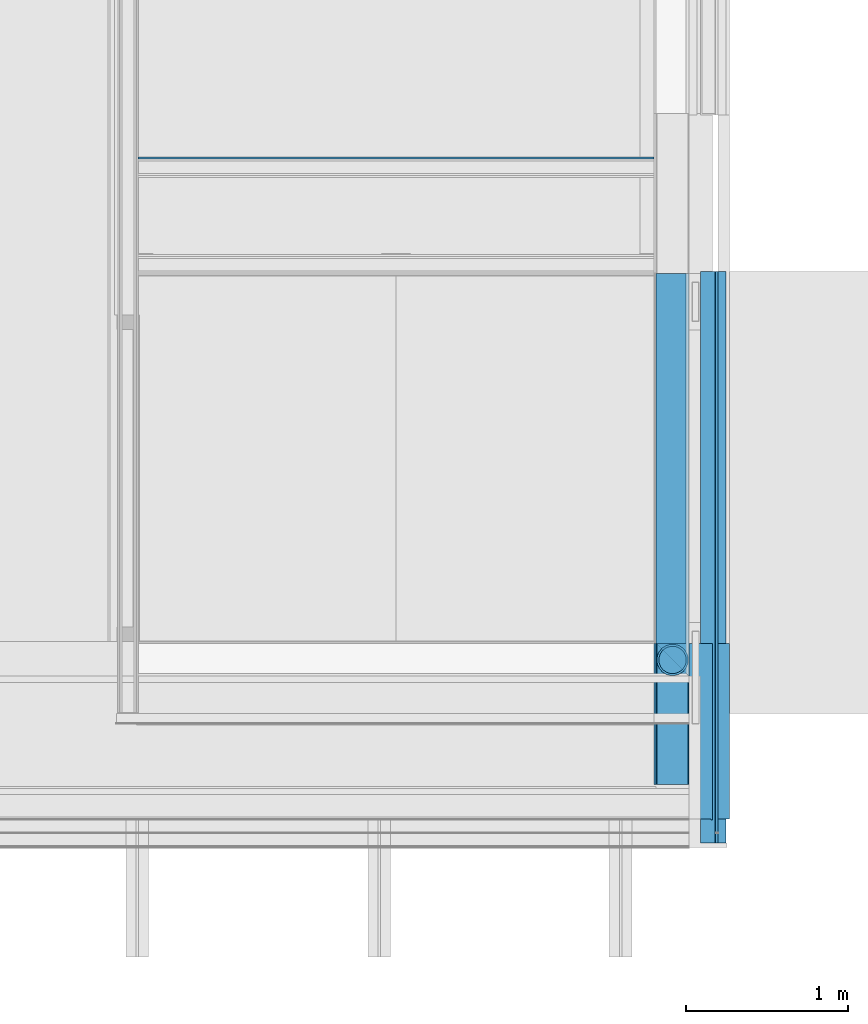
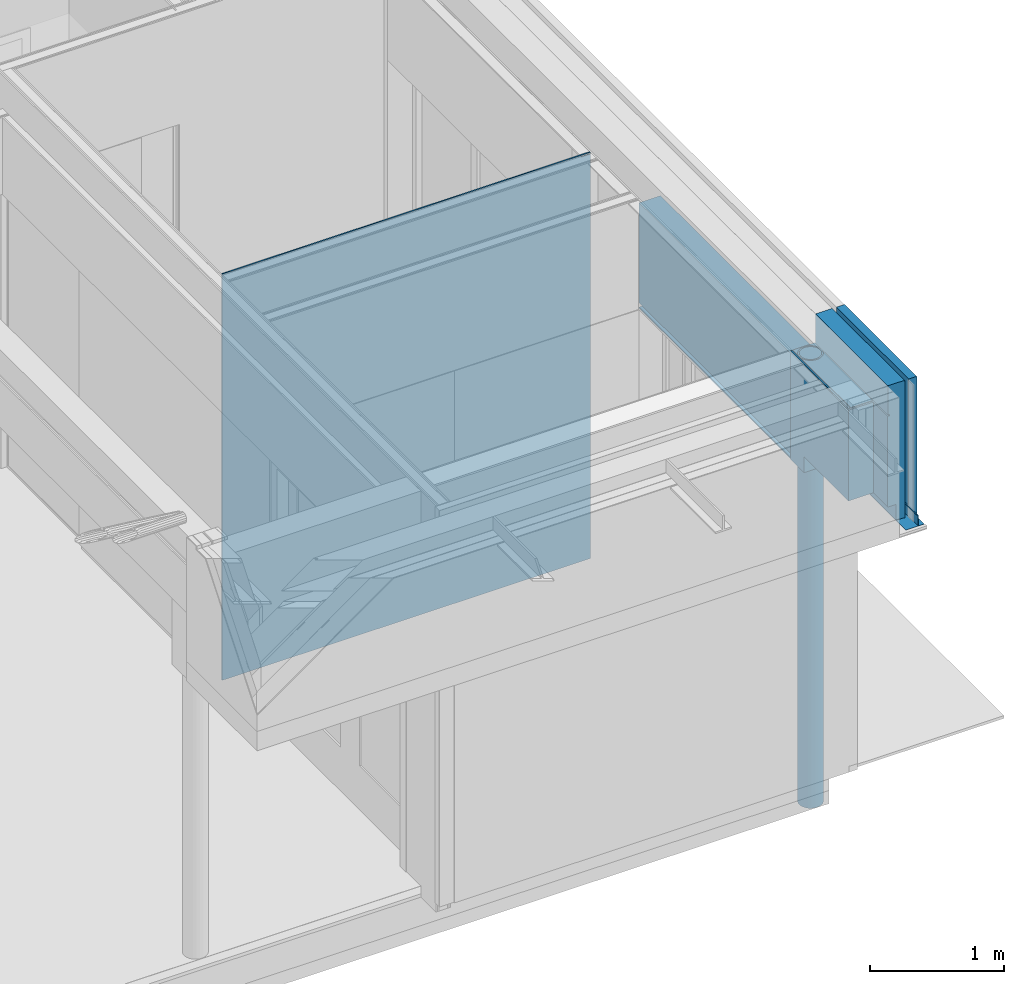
# One storey, part 66 of 165: 10 building element parts, 5 elements without a shape of their own.
"""IFC2X3 building model written with IfcOpenShell, lengths in millimetres."""

from ifc_helpers import new_model, entity, si_unit, converted_unit, derived_unit, money_unit, direction, frame, origin_with_axes, place, context, subcontext, project, spatial, faceted_brep, material, type_object, element, aggregate, save


model = new_model("IFC2X3")

# Units and contexts
model_context = context("Model", 3, precision=0.01, world=origin_with_axes(), true_north=direction((0.0, 1.0)))
body_context = subcontext(model_context, "Body", "Model", "MODEL_VIEW")
ifc_project = project(units=[si_unit("LENGTHUNIT", "METRE", prefix="MILLI"), si_unit("AREAUNIT", "SQUARE_METRE"), si_unit("VOLUMEUNIT", "CUBIC_METRE"), converted_unit("PLANEANGLEUNIT", "DEGREE", entity("IfcPlaneAngleMeasure", 0.0174532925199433), si_unit("PLANEANGLEUNIT", "RADIAN"), dimensions=[0, 0, 0, 0, 0, 0, 0]), money_unit("EUR"), converted_unit("TIMEUNIT", "Year", entity("IfcTimeMeasure", 31556926.0), si_unit("TIMEUNIT", "SECOND"), dimensions=[0, 0, 1, 0, 0, 0, 0]), si_unit("MASSUNIT", "GRAM", prefix="KILO"), si_unit("THERMODYNAMICTEMPERATUREUNIT", "DEGREE_CELSIUS"), si_unit("LUMINOUSINTENSITYUNIT", "LUMEN"), si_unit("ENERGYUNIT", "JOULE", prefix="MEGA"), derived_unit("THERMALCONDUCTANCEUNIT", [(si_unit("POWERUNIT", "WATT"), 1), (si_unit("LENGTHUNIT", "METRE"), -1), (si_unit("THERMODYNAMICTEMPERATUREUNIT", "KELVIN"), -1)]), derived_unit("SPECIFICHEATCAPACITYUNIT", [(si_unit("ENERGYUNIT", "JOULE"), 1), (si_unit("MASSUNIT", "GRAM", prefix="KILO"), -1), (si_unit("THERMODYNAMICTEMPERATUREUNIT", "KELVIN"), -1)]), derived_unit("MASSDENSITYUNIT", [(si_unit("MASSUNIT", "GRAM", prefix="KILO"), 1), (si_unit("VOLUMEUNIT", "CUBIC_METRE"), -1)])], contexts=[model_context])

# Site, building, storey
site_placement = place(None, origin_with_axes())
site = spatial("IfcSite", under=ifc_project, at=site_placement, Name="Site", CompositionType="ELEMENT")
building_placement = place(site_placement, origin_with_axes())
building = spatial("IfcBuilding", under=site, at=building_placement, Name="Naam gebouw", CompositionType="ELEMENT")
storey_placement = place(building_placement, origin_with_axes())
storey = spatial("IfcBuildingStorey", under=building, at=storey_placement, Name="Begane grond", CompositionType="ELEMENT", Elevation=0.0)

# Column, building element parts
column_type = type_object("IfcColumnType", Name="193.7X12.5 194 x 194", PredefinedType="COLUMN")
column_placement = place(storey_placement, frame((29800.0, 4579.999999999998, -480.0), z_axis=(0.0, 0.0, 1.0), x_axis=(1.0, 0.0, 0.0)))
column = element("IfcColumn", 1, at=column_placement, inside=storey, type_object=column_type, Name="28_Kolom-x", ObjectType="COLUMN")
ifc_material_1 = material(Name="Beton gewapend C")
building_element_part_1_placement = place(column_placement, origin_with_axes())
building_element_part_1 = element("IfcBuildingElementPart", 2, at=building_element_part_1_placement, material=ifc_material_1, Name="Beton gewapend C", context=body_context, shape_type="Brep", body=[
    faceted_brep([(80.93323232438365, 23.76414116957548, 4063.0), (84.35000000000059, 0.0, 4063.0), (84.35000000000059, 0.0, 0.0), (80.93323232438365, 23.76414116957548, 0.0), (80.93323232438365, -23.76414116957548, 4063.0), (70.95973549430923, 45.6030529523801, 4063.0), (55.23750290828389, 63.74747659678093, 4063.0), (35.04025634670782, 76.72745880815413, 4063.0), (12.00425660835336, 83.49143862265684, 4063.0), (-12.00425660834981, 83.49143862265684, 4063.0), (-35.04025634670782, 76.72745880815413, 4063.0), (-55.23750290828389, 63.74747659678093, 4063.0), (-70.95973549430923, 45.6030529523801, 4063.0), (-80.93323232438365, 23.76414116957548, 4063.0), (-84.35000000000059, 0.0, 4063.0), (-80.93323232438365, -23.76414116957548, 4063.0), (-70.95973549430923, -45.6030529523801, 4063.0), (-55.23750290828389, -63.74747659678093, 4063.0), (-35.04025634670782, -76.72745880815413, 4063.0), (-12.00425660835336, -83.49143862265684, 4063.0), (12.00425660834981, -83.49143862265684, 4063.0), (35.04025634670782, -76.72745880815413, 4063.0), (55.23750290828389, -63.74747659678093, 4063.0), (70.95973549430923, -45.6030529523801, 4063.0), (80.93323232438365, -23.76414116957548, 0.0), (70.95973549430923, 45.6030529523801, 0.0), (70.95973549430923, -45.6030529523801, 0.0), (55.23750290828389, -63.74747659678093, 0.0), (35.04025634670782, -76.72745880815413, 0.0), (12.00425660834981, -83.49143862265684, 0.0), (-12.00425660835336, -83.49143862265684, 0.0), (-35.04025634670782, -76.72745880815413, 0.0), (-55.23750290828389, -63.74747659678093, 0.0), (-70.95973549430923, -45.6030529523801, 0.0), (-80.93323232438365, -23.76414116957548, 0.0), (-84.35000000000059, 0.0, 0.0), (-80.93323232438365, 23.76414116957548, 0.0), (-70.95973549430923, 45.6030529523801, 0.0), (-55.23750290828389, 63.74747659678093, 0.0), (-35.04025634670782, 76.72745880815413, 0.0), (-12.00425660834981, 83.49143862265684, 0.0), (12.00425660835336, 83.49143862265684, 0.0), (35.04025634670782, 76.72745880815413, 0.0), (55.23750290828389, 63.74747659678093, 0.0)], [[[0, 1, 2, 3]], [[4, 1, 0, 5, 6, 7, 8, 9, 10, 11, 12, 13, 14, 15, 16, 17, 18, 19, 20, 21, 22, 23]], [[1, 4, 24, 2]], [[25, 3, 2, 24, 26, 27, 28, 29, 30, 31, 32, 33, 34, 35, 36, 37, 38, 39, 40, 41, 42, 43]], [[5, 0, 3, 25]], [[6, 5, 25, 43]], [[7, 6, 43, 42]], [[8, 7, 42, 41]], [[9, 8, 41, 40]], [[10, 9, 40, 39]], [[11, 10, 39, 38]], [[12, 11, 38, 37]], [[13, 12, 37, 36]], [[14, 13, 36, 35]], [[15, 14, 35, 34]], [[16, 15, 34, 33]], [[17, 16, 33, 32]], [[18, 17, 32, 31]], [[19, 18, 31, 30]], [[20, 19, 30, 29]], [[21, 20, 29, 28]], [[22, 21, 28, 27]], [[23, 22, 27, 26]], [[4, 23, 26, 24]]]),
    faceted_brep([(80.93323232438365, -23.76414116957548, 4074.999999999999), (84.35000000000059, 0.0, 4074.999999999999), (84.35000000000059, 0.0, 4079.999999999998), (80.93323232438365, -23.76414116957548, 4079.999999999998), (80.93323232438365, 23.76414116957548, 4074.999999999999), (70.95973549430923, -45.6030529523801, 4074.999999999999), (55.23750290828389, -63.74747659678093, 4074.999999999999), (35.04025634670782, -76.72745880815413, 4074.999999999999), (12.00425660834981, -83.49143862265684, 4074.999999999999), (-12.00425660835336, -83.49143862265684, 4074.999999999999), (-35.04025634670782, -76.72745880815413, 4074.999999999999), (-55.23750290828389, -63.74747659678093, 4074.999999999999), (-70.95973549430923, -45.6030529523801, 4074.999999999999), (-80.93323232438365, -23.76414116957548, 4074.999999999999), (-84.35000000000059, 0.0, 4074.999999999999), (-80.93323232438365, 23.76414116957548, 4074.999999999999), (-70.95973549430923, 45.6030529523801, 4074.999999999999), (-55.23750290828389, 63.74747659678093, 4074.999999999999), (-35.04025634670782, 76.72745880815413, 4074.999999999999), (-12.00425660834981, 83.49143862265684, 4074.999999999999), (12.00425660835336, 83.49143862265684, 4074.999999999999), (35.04025634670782, 76.72745880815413, 4074.999999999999), (55.23750290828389, 63.74747659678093, 4074.999999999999), (70.95973549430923, 45.6030529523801, 4074.999999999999), (80.93323232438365, 23.76414116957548, 4079.999999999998), (70.95973549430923, -45.6030529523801, 4079.999999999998), (70.95973549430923, 45.6030529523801, 4079.999999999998), (55.23750290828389, 63.74747659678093, 4079.999999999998), (35.04025634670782, 76.72745880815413, 4079.999999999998), (12.00425660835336, 83.49143862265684, 4079.999999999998), (-12.00425660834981, 83.49143862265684, 4079.999999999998), (-35.04025634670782, 76.72745880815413, 4079.999999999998), (-55.23750290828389, 63.74747659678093, 4079.999999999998), (-70.95973549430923, 45.6030529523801, 4079.999999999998), (-80.93323232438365, 23.76414116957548, 4079.999999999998), (-84.35000000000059, 0.0, 4079.999999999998), (-80.93323232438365, -23.76414116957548, 4079.999999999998), (-70.95973549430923, -45.6030529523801, 4079.999999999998), (-55.23750290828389, -63.74747659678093, 4079.999999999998), (-35.04025634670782, -76.72745880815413, 4079.999999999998), (-12.00425660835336, -83.49143862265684, 4079.999999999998), (12.00425660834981, -83.49143862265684, 4079.999999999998), (35.04025634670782, -76.72745880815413, 4079.999999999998), (55.23750290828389, -63.74747659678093, 4079.999999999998)], [[[0, 1, 2, 3]], [[4, 1, 0, 5, 6, 7, 8, 9, 10, 11, 12, 13, 14, 15, 16, 17, 18, 19, 20, 21, 22, 23]], [[1, 4, 24, 2]], [[25, 3, 2, 24, 26, 27, 28, 29, 30, 31, 32, 33, 34, 35, 36, 37, 38, 39, 40, 41, 42, 43]], [[5, 0, 3, 25]], [[6, 5, 25, 43]], [[7, 6, 43, 42]], [[8, 7, 42, 41]], [[9, 8, 41, 40]], [[10, 9, 40, 39]], [[11, 10, 39, 38]], [[12, 11, 38, 37]], [[13, 12, 37, 36]], [[14, 13, 36, 35]], [[15, 14, 35, 34]], [[16, 15, 34, 33]], [[17, 16, 33, 32]], [[18, 17, 32, 31]], [[19, 18, 31, 30]], [[20, 19, 30, 29]], [[21, 20, 29, 28]], [[22, 21, 28, 27]], [[23, 22, 27, 26]], [[4, 23, 26, 24]]]),
])
ifc_material_2 = material(Name="Metaal - Staal C")
building_element_part_2_placement = place(column_placement, origin_with_axes())
building_element_part_2 = element("IfcBuildingElementPart", 3, at=building_element_part_2_placement, material=ifc_material_2, Name="Metaal - Staal C", context=body_context, shape_type="Brep", body=[
    faceted_brep([(96.84999999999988, 0.0, 0.0), (92.92689449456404, 27.28579813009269, 0.0), (92.92689449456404, 27.28579813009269, 4079.999999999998), (96.84999999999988, 0.0, 4079.999999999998), (92.92689449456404, -27.28579813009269, 0.0), (81.47540465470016, -52.36106317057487, 0.0), (63.42326208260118, -73.19434627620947, 0.0), (40.23294400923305, -88.0978587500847, 0.0), (13.78319208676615, -95.86420664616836, 0.0), (-13.78319208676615, -95.86420664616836, 0.0), (-40.23294400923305, -88.0978587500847, 0.0), (-63.42326208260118, -73.19434627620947, 0.0), (-81.47540465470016, -52.36106317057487, 0.0), (-92.92689449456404, -27.28579813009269, 0.0), (-96.84999999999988, 0.0, 0.0), (-92.92689449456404, 27.28579813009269, 0.0), (-81.47540465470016, 52.36106317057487, 0.0), (-63.42326208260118, 73.19434627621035, 0.0), (-40.23294400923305, 88.0978587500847, 0.0), (-13.78319208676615, 95.86420664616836, 0.0), (13.78319208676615, 95.86420664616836, 0.0), (40.23294400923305, 88.0978587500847, 0.0), (63.42326208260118, 73.19434627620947, 0.0), (81.47540465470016, 52.36106317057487, 0.0), (84.35000000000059, 0.0, 0.0), (80.93323232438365, 23.76414116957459, 0.0), (70.95973549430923, 45.6030529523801, 0.0), (55.23750290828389, 63.74747659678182, 0.0), (35.04025634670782, 76.72745880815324, 0.0), (12.00425660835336, 83.49143862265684, 0.0), (-12.00425660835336, 83.49143862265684, 0.0), (-35.04025634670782, 76.72745880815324, 0.0), (-55.23750290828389, 63.74747659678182, 0.0), (-70.95973549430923, 45.6030529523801, 0.0), (-80.93323232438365, 23.76414116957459, 0.0), (-84.35000000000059, 0.0, 0.0), (-80.93323232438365, -23.76414116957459, 0.0), (-70.95973549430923, -45.60305295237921, 0.0), (-55.23750290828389, -63.74747659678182, 0.0), (-35.04025634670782, -76.72745880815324, 0.0), (-12.00425660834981, -83.49143862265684, 0.0), (12.00425660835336, -83.49143862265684, 0.0), (35.04025634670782, -76.72745880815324, 0.0), (55.23750290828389, -63.74747659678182, 0.0), (70.95973549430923, -45.60305295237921, 0.0), (80.93323232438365, -23.76414116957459, 0.0), (81.47540465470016, 52.36106317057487, 4079.999999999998), (63.42326208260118, 73.19434627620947, 4079.999999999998), (40.23294400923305, 88.0978587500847, 4079.999999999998), (13.78319208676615, 95.86420664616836, 4079.999999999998), (-13.78319208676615, 95.86420664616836, 4079.999999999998), (-40.23294400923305, 88.0978587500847, 4079.999999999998), (-63.42326208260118, 73.19434627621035, 4079.999999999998), (-81.47540465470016, 52.36106317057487, 4079.999999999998), (-92.92689449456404, 27.28579813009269, 4079.999999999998), (-96.84999999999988, 0.0, 4079.999999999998), (-92.92689449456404, -27.28579813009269, 4079.999999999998), (-81.47540465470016, -52.36106317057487, 4079.999999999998), (-63.42326208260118, -73.19434627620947, 4079.999999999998), (-40.23294400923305, -88.0978587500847, 4079.999999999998), (-13.78319208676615, -95.86420664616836, 4079.999999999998), (13.78319208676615, -95.86420664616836, 4079.999999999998), (40.23294400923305, -88.0978587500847, 4079.999999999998), (63.42326208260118, -73.19434627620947, 4079.999999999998), (81.47540465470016, -52.36106317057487, 4079.999999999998), (92.92689449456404, -27.28579813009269, 4079.999999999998), (84.35000000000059, 0.0, 4079.999999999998), (80.93323232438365, -23.76414116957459, 4079.999999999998), (70.95973549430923, -45.60305295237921, 4079.999999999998), (55.23750290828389, -63.74747659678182, 4079.999999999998), (35.04025634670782, -76.72745880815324, 4079.999999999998), (12.00425660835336, -83.49143862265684, 4079.999999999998), (-12.00425660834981, -83.49143862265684, 4079.999999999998), (-35.04025634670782, -76.72745880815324, 4079.999999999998), (-55.23750290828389, -63.74747659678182, 4079.999999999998), (-70.95973549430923, -45.60305295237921, 4079.999999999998), (-80.93323232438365, -23.76414116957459, 4079.999999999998), (-84.35000000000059, 0.0, 4079.999999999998), (-80.93323232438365, 23.76414116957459, 4079.999999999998), (-70.95973549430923, 45.6030529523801, 4079.999999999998), (-55.23750290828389, 63.74747659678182, 4079.999999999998), (-35.04025634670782, 76.72745880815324, 4079.999999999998), (-12.00425660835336, 83.49143862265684, 4079.999999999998), (12.00425660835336, 83.49143862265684, 4079.999999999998), (35.04025634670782, 76.72745880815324, 4079.999999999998), (55.23750290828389, 63.74747659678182, 4079.999999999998), (70.95973549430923, 45.6030529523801, 4079.999999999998), (80.93323232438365, 23.76414116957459, 4079.999999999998)], [[[0, 1, 2, 3]], [[0, 4, 5, 6, 7, 8, 9, 10, 11, 12, 13, 14, 15, 16, 17, 18, 19, 20, 21, 22, 23, 1], [24, 25, 26, 27, 28, 29, 30, 31, 32, 33, 34, 35, 36, 37, 38, 39, 40, 41, 42, 43, 44, 45]], [[1, 23, 46, 2]], [[3, 2, 46, 47, 48, 49, 50, 51, 52, 53, 54, 55, 56, 57, 58, 59, 60, 61, 62, 63, 64, 65], [66, 67, 68, 69, 70, 71, 72, 73, 74, 75, 76, 77, 78, 79, 80, 81, 82, 83, 84, 85, 86, 87]], [[4, 0, 3, 65]], [[5, 4, 65, 64]], [[6, 5, 64, 63]], [[7, 6, 63, 62]], [[8, 7, 62, 61]], [[9, 8, 61, 60]], [[10, 9, 60, 59]], [[11, 10, 59, 58]], [[12, 11, 58, 57]], [[13, 12, 57, 56]], [[14, 13, 56, 55]], [[15, 14, 55, 54]], [[16, 15, 54, 53]], [[17, 16, 53, 52]], [[18, 17, 52, 51]], [[19, 18, 51, 50]], [[20, 19, 50, 49]], [[21, 20, 49, 48]], [[22, 21, 48, 47]], [[23, 22, 47, 46]], [[25, 24, 66, 87]], [[26, 25, 87, 86]], [[27, 26, 86, 85]], [[28, 27, 85, 84]], [[29, 28, 84, 83]], [[30, 29, 83, 82]], [[31, 30, 82, 81]], [[32, 31, 81, 80]], [[33, 32, 80, 79]], [[34, 33, 79, 78]], [[35, 34, 78, 77]], [[36, 35, 77, 76]], [[37, 36, 76, 75]], [[38, 37, 75, 74]], [[39, 38, 74, 73]], [[40, 39, 73, 72]], [[41, 40, 72, 71]], [[42, 41, 71, 70]], [[43, 42, 70, 69]], [[44, 43, 69, 68]], [[45, 44, 68, 67]], [[24, 45, 67, 66]]]),
])
aggregate(column, [building_element_part_1, building_element_part_2])

# Proxy, building element part
building_element_proxy_type = type_object("IfcBuildingElementProxyType", Name="22 Metal stud 125 gips 125", PredefinedType="NOTDEFINED")
proxy_placement = place(storey_placement, frame((26386.00000000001, 7674.998044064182, -100.0), z_axis=(0.0, 0.0, 1.0), x_axis=(1.0, 0.0, 0.0)))
proxy = element("IfcBuildingElementProxy", 4, at=proxy_placement, inside=storey, type_object=building_element_proxy_type, Name="_Wand-x")
ifc_material_3 = material(Name="Gipsplaat")
building_element_part_3_placement = place(proxy_placement, origin_with_axes())
building_element_part_3 = element("IfcBuildingElementPart", 5, at=building_element_part_3_placement, material=ifc_material_3, Name="Gipsplaat", context=body_context, shape_type="Brep", body=[
    faceted_brep([(3299.99999999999, -12.49999999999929, 3695.0), (3299.99999999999, 0.0, 3695.0), (3299.99999999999, 0.0, 3700.0), (3299.99999999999, -12.49999999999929, 3700.0), (3214.999995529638, 0.0, 3695.0), (3214.999995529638, -12.49999999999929, 3695.0), (3214.999995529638, 0.0, 3683.0), (3299.99999999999, 0.0, 3683.0), (3299.99999999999, 0.0, 0.0), (125.0, 0.0, 0.0), (125.0, 0.0, 3700.0), (125.0, -12.50000000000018, 3700.0), (125.0, -12.50000000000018, 0.0), (3299.99999999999, -12.50000000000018, 0.0), (3299.99999999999, -12.49999999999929, 3683.0), (3214.999995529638, -12.49999999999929, 3683.0)], [[[0, 1, 2, 3]], [[4, 1, 0, 5]], [[6, 7, 8, 9, 10, 2, 1, 4]], [[3, 2, 10, 11]], [[5, 0, 3, 11, 12, 13, 14, 15]], [[6, 4, 5, 15]], [[14, 7, 6, 15]], [[7, 14, 13, 8]], [[8, 13, 12, 9]], [[12, 11, 10, 9]]]),
])
aggregate(proxy, [building_element_part_3])

# Wall, building element parts
wall_type = type_object("IfcWallType", Name="21 Buitenwand spouwmuur 464", PredefinedType="NOTDEFINED")
wall_placement = place(storey_placement, frame((29899.99999999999, 4679.999999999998, 2610.0), z_axis=(0.0, 0.0, 1.0), x_axis=(0.0, -1.0, 0.0)))
wall = element("IfcWall", 6, at=wall_placement, inside=storey, type_object=wall_type, Name="21_Wand-x")
ifc_material_4 = material(Name="Steen - Baksteen")
building_element_part_4_placement = place(wall_placement, origin_with_axes())
building_element_part_4 = element("IfcBuildingElementPart", 7, at=building_element_part_4_placement, material=ifc_material_4, Name="Steen - Baksteen", context=body_context, shape_type="Brep", body=[
    faceted_brep([(0.0, 179.9999999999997, 1250.0), (1079.999999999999, 179.9999999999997, 1250.0), (1079.999999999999, 250.0, 1250.0), (0.0, 250.0, 1250.0), (0.0, 179.9999999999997, 0.0), (1079.999999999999, 179.9999999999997, 1.203278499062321e-05), (1079.999999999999, 250.0, 1.203278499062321e-05), (0.0, 250.0, 0.0)], [[[0, 1, 2, 3]], [[4, 5, 1, 0]], [[5, 6, 2, 1]], [[3, 2, 6, 7]], [[7, 4, 0, 3]], [[7, 6, 5, 4]]]),
])
ifc_material_5 = material(Name="Isolatie - Steenwol zacht")
building_element_part_5_placement = place(wall_placement, origin_with_axes())
building_element_part_5 = element("IfcBuildingElementPart", 8, at=building_element_part_5_placement, material=ifc_material_5, Name="Isolatie - Steenwol zacht", context=body_context, shape_type="Brep", body=[
    faceted_brep([(200.0000444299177, 0.0, 146.0000006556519), (200.0000444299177, 0.0, 2.228293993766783e-06), (200.0000444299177, 72.00000001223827, 1.203278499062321e-05), (200.0000444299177, 72.00000001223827, 146.0000006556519), (1079.999999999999, 2.235182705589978e-06, 146.0000006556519), (1080.000000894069, 0.0, 972.9999999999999), (0.0, 0.0, 972.9999999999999), (0.0, 0.0, 0.0), (0.0, 144.9999999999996, 0.0), (1083.999999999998, 144.9999999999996, 0.0), (1083.999999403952, 138.0000473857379, 1.203278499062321e-05), (1080.000000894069, 138.0000473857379, 1.203278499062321e-05), (1080.000000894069, 72.00000001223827, 1.203278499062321e-05), (1080.000000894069, 72.00000001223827, 146.0000006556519), (1080.000000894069, 138.0000473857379, 1250.0), (1080.000000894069, 1.000000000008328, 1250.0), (1080.000000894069, 1.000000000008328, 984.9999999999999), (1080.000000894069, 16.0000000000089, 984.9999999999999), (1080.000000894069, 16.0000000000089, 972.9999999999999), (0.0, 16.0000000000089, 972.9999999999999), (0.0, 16.0000000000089, 984.9999999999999), (0.0, 1.000000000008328, 984.9999999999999), (0.0, 1.000000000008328, 1250.0), (0.0, 144.9999999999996, 1250.0), (1083.999999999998, 144.9999999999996, 1250.0), (1083.999999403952, 138.0000473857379, 1250.0)], [[[0, 1, 2, 3]], [[1, 0, 4, 5, 6, 7]], [[2, 1, 7, 8, 9, 10, 11, 12]], [[3, 2, 12, 13]], [[13, 4, 0, 3]], [[12, 11, 14, 15, 16, 17, 18, 5, 4, 13]], [[6, 5, 18, 19]], [[8, 7, 6, 19, 20, 21, 22, 23]], [[9, 8, 23, 24]], [[24, 25, 10, 9]], [[10, 25, 14, 11]], [[15, 14, 25, 24, 23, 22]], [[21, 16, 15, 22]], [[20, 17, 16, 21]], [[19, 18, 17, 20]]]),
])
ifc_material_6 = material(Name="Steen - Kalkzandsteen C")
building_element_part_6_placement = place(wall_placement, origin_with_axes())
building_element_part_6 = element("IfcBuildingElementPart", 9, at=building_element_part_6_placement, material=ifc_material_6, Name="Steen - Kalkzandsteen C", context=body_context, shape_type="Brep", body=[
    faceted_brep([(200.0000444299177, -213.9999999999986, 146.0000006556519), (200.0000444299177, -213.9999999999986, 0.0), (200.0000444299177, 0.0, 0.0), (200.0000444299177, 0.0, 146.0000006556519), (865.9999999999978, -213.9999999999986, 146.0000006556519), (865.9999999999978, -213.9999999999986, 972.9999999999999), (0.0, -213.9999999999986, 972.9999999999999), (0.0, -213.9999999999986, 0.0), (0.0, 0.0, 0.0), (173.1943462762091, -36.57673791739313, 0.0), (152.3610631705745, -18.52459534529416, 0.0), (127.2857981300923, -7.073105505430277, 0.0), (99.99999999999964, -3.149999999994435, 0.0), (72.71420186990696, -7.073105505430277, 0.0), (47.63893682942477, -18.52459534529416, 0.0), (26.80565372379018, -36.57673791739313, 0.0), (11.90214124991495, -59.76705599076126, 0.0), (4.135793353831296, -86.21680791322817, 0.0), (4.135793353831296, -113.7831920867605, 0.0), (11.90214124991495, -140.2329440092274, 0.0), (26.80565372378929, -163.4232620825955, 0.0), (47.63893682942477, -181.4754046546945, 0.0), (72.71420186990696, -192.9268944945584, 0.0), (99.99999999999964, -196.8499999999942, 0.0), (127.2857981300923, -192.9268944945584, 0.0), (152.3610631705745, -181.4754046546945, 0.0), (173.1943462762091, -163.4232620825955, 0.0), (188.0978587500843, -140.2329440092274, 0.0), (195.864206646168, -113.7831920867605, 0.0), (195.864206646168, -86.21680791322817, 0.0), (188.0978587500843, -59.76705599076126, 0.0), (0.0, 0.0, 972.9999999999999), (865.9999999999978, 0.0, 972.9999999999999), (865.9999999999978, 0.0, 146.0000006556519), (26.80565372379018, -36.57673791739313, 972.9999999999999), (47.63893682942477, -18.52459534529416, 972.9999999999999), (72.71420186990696, -7.073105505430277, 972.9999999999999), (99.99999999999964, -3.149999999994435, 972.9999999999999), (127.2857981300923, -7.073105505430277, 972.9999999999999), (152.3610631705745, -18.52459534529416, 972.9999999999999), (173.1943462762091, -36.57673791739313, 972.9999999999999), (188.0978587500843, -59.76705599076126, 972.9999999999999), (195.864206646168, -86.21680791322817, 972.9999999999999), (195.864206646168, -113.7831920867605, 972.9999999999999), (188.0978587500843, -140.2329440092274, 972.9999999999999), (173.1943462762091, -163.4232620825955, 972.9999999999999), (152.3610631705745, -181.4754046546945, 972.9999999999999), (127.2857981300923, -192.9268944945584, 972.9999999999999), (99.99999999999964, -196.8499999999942, 972.9999999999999), (72.71420186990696, -192.9268944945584, 972.9999999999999), (47.63893682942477, -181.4754046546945, 972.9999999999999), (26.80565372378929, -163.4232620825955, 972.9999999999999), (11.90214124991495, -140.2329440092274, 972.9999999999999), (4.135793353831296, -113.7831920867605, 972.9999999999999), (4.135793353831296, -86.21680791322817, 972.9999999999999), (11.90214124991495, -59.76705599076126, 972.9999999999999)], [[[0, 1, 2, 3]], [[1, 0, 4, 5, 6, 7]], [[2, 1, 7, 8], [9, 10, 11, 12, 13, 14, 15, 16, 17, 18, 19, 20, 21, 22, 23, 24, 25, 26, 27, 28, 29, 30]], [[2, 8, 31, 32, 33, 3]], [[3, 33, 4, 0]], [[4, 33, 32, 5]], [[6, 5, 32, 31], [34, 35, 36, 37, 38, 39, 40, 41, 42, 43, 44, 45, 46, 47, 48, 49, 50, 51, 52, 53, 54, 55]], [[8, 7, 6, 31]], [[9, 40, 39, 10]], [[10, 39, 38, 11]], [[11, 38, 37, 12]], [[12, 37, 36, 13]], [[13, 36, 35, 14]], [[14, 35, 34, 15]], [[15, 34, 55, 16]], [[16, 55, 54, 17]], [[17, 54, 53, 18]], [[18, 53, 52, 19]], [[19, 52, 51, 20]], [[20, 51, 50, 21]], [[21, 50, 49, 22]], [[22, 49, 48, 23]], [[23, 48, 47, 24]], [[24, 47, 46, 25]], [[25, 46, 45, 26]], [[26, 45, 44, 27]], [[27, 44, 43, 28]], [[28, 43, 42, 29]], [[29, 42, 41, 30]], [[30, 41, 40, 9]]]),
    faceted_brep([(112.8670326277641, -4.9999999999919, 984.9999999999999), (112.8670326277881, -4.999999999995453, 989.9999999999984), (865.9999999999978, -4.999999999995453, 989.9999999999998), (865.9999999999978, -4.9999999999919, 984.9999999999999), (127.2857981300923, -7.073105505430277, 989.9999999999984), (127.2857981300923, -7.073105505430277, 984.9999999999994), (127.2857981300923, -192.9268944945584, 989.9999999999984), (112.8670326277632, -194.9999999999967, 989.9999999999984), (865.9999999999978, -194.9999999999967, 989.9999999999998), (152.3610631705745, -18.52459534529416, 989.9999999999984), (173.1943462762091, -36.57673791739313, 989.9999999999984), (188.0978587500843, -59.76705599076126, 989.9999999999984), (195.864206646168, -86.21680791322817, 989.9999999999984), (195.864206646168, -113.7831920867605, 989.9999999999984), (188.0978587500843, -140.2329440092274, 989.9999999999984), (173.1943462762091, -163.4232620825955, 989.9999999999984), (152.3610631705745, -181.4754046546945, 989.9999999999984), (865.9999999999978, -194.9999999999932, 984.9999999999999), (112.8670326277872, -194.9999999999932, 984.9999999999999), (127.2857981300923, -192.9268944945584, 984.9999999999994), (152.3610631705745, -181.4754046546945, 984.9999999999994), (173.1943462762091, -163.4232620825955, 984.9999999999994), (188.0978587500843, -140.2329440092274, 984.9999999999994), (195.864206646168, -113.7831920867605, 984.9999999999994), (195.864206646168, -86.21680791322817, 984.9999999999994), (188.0978587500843, -59.76705599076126, 984.9999999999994), (173.1943462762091, -36.57673791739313, 984.9999999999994), (152.3610631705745, -18.52459534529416, 984.9999999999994)], [[[0, 1, 2, 3]], [[4, 1, 0, 5]], [[6, 7, 8, 2, 1, 4, 9, 10, 11, 12, 13, 14, 15, 16]], [[17, 3, 2, 8]], [[5, 0, 3, 17, 18, 19, 20, 21, 22, 23, 24, 25, 26, 27]], [[9, 4, 5, 27]], [[7, 6, 19, 18]], [[7, 18, 17, 8]], [[10, 9, 27, 26]], [[11, 10, 26, 25]], [[12, 11, 25, 24]], [[13, 12, 24, 23]], [[14, 13, 23, 22]], [[15, 14, 22, 21]], [[16, 15, 21, 20]], [[6, 16, 20, 19]]]),
    faceted_brep([(47.63893682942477, -18.52459534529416, 989.9999999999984), (72.71420186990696, -7.073105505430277, 989.9999999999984), (87.13296737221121, -4.999999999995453, 989.9999999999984), (0.0, -4.999999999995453, 989.9999999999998), (0.0, -194.9999999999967, 989.9999999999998), (87.13296737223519, -194.9999999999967, 989.9999999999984), (72.71420186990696, -192.9268944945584, 989.9999999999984), (47.63893682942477, -181.4754046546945, 989.9999999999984), (26.80565372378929, -163.4232620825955, 989.9999999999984), (11.90214124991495, -140.2329440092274, 989.9999999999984), (4.135793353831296, -113.7831920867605, 989.9999999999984), (4.135793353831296, -86.21680791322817, 989.9999999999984), (11.90214124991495, -59.76705599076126, 989.9999999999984), (26.80565372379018, -36.57673791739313, 989.9999999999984), (47.63893682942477, -18.52459534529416, 984.9999999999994), (72.71420186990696, -7.073105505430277, 984.9999999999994), (87.13296737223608, -4.9999999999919, 984.9999999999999), (0.0, -4.9999999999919, 984.9999999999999), (0.0, -194.9999999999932, 984.9999999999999), (87.13296737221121, -194.9999999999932, 984.9999999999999), (72.71420186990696, -192.9268944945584, 984.9999999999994), (47.63893682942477, -181.4754046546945, 984.9999999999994), (26.80565372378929, -163.4232620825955, 984.9999999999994), (11.90214124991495, -140.2329440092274, 984.9999999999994), (4.135793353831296, -113.7831920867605, 984.9999999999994), (4.135793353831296, -86.21680791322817, 984.9999999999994), (11.90214124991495, -59.76705599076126, 984.9999999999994), (26.80565372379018, -36.57673791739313, 984.9999999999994)], [[[0, 1, 2, 3, 4, 5, 6, 7, 8, 9, 10, 11, 12, 13]], [[1, 0, 14, 15]], [[16, 2, 1, 15]], [[2, 16, 17, 3]], [[17, 18, 4, 3]], [[19, 5, 4, 18]], [[6, 5, 19, 20]], [[7, 6, 20, 21]], [[8, 7, 21, 22]], [[9, 8, 22, 23]], [[10, 9, 23, 24]], [[11, 10, 24, 25]], [[12, 11, 25, 26]], [[13, 12, 26, 27]], [[0, 13, 27, 14]], [[20, 19, 18, 17, 16, 15, 14, 27, 26, 25, 24, 23, 22, 21]]]),
    faceted_brep([(865.9999999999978, -200.9999999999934, 989.9999999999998), (0.0, -200.9999999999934, 989.9999999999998), (0.0, -213.9999999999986, 989.9999999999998), (865.9999999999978, -213.9999999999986, 989.9999999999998), (0.0, -200.9999999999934, 984.9999999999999), (865.9999999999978, -200.9999999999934, 984.9999999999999), (0.0, -213.9999999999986, 984.9999999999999), (865.9999999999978, -213.9999999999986, 984.9999999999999)], [[[0, 1, 2, 3]], [[4, 1, 0, 5]], [[4, 6, 2, 1]], [[6, 7, 3, 2]], [[5, 0, 3, 7]], [[6, 4, 5, 7]]]),
])
aggregate(wall, [building_element_part_4, building_element_part_5, building_element_part_6])

# Beam, building element parts
beam_type_1 = type_object("IfcBeamType", Name="41 Latei/geveldrager 158 x 112", PredefinedType="BEAM")
beam_1_placement = place(storey_placement, frame((30079.99999999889, 6969.997857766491, 2610.0), z_axis=(0.0, 0.0, 1.0), x_axis=(-1.0, 0.0, 0.0)))
beam_1 = element("IfcBeam", 10, at=beam_1_placement, inside=storey, type_object=beam_type_1, Name="_Regenwaterafvoer-x", ObjectType="BEAM")
building_element_part_7_placement = place(beam_1_placement, origin_with_axes())
building_element_part_7 = element("IfcBuildingElementPart", 11, at=building_element_part_7_placement, material=ifc_material_2, Name="Metaal - Staal C", context=body_context, shape_type="Brep", body=[
    faceted_brep([(-50.00000000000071, 3515.997859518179, 6.55651533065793e-07), (-50.00000000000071, 3515.997859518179, -3.000000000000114), (-50.00000000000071, 0.0, -3.000000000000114), (-50.00000000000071, 0.0, 6.55651533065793e-07), (-5.9603877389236e-08, 3515.997859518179, 6.55651533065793e-07), (-5.9603877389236e-08, 3515.997859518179, 99.3417707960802), (16.54654975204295, 3515.997859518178, 108.894926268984), (18.04655007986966, 3515.997859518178, 106.296849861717), (3.000000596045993, 3515.997859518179, 96.99999988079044), (3.000000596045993, 3515.997859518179, 6.55651533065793e-07), (3.000000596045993, 3515.997859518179, -3.000000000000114), (3.000000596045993, 0.0, -3.000000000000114), (3.000000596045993, 0.0, 6.55651533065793e-07), (3.000000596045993, 0.0, 96.99999988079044), (18.04655007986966, 0.0, 106.296849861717), (16.54654975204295, 0.0, 108.894926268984), (-5.9603877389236e-08, 0.0, 99.3417707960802), (-5.9603877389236e-08, 0.0, 6.55651533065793e-07)], [[[0, 1, 2, 3]], [[0, 4, 5, 6, 7, 8, 9, 10, 1]], [[1, 10, 11, 2]], [[3, 2, 11, 12, 13, 14, 15, 16, 17]], [[4, 0, 3, 17]], [[5, 4, 17, 16]], [[6, 5, 16, 15]], [[7, 6, 15, 14]], [[8, 7, 14, 13]], [[9, 8, 13, 12]], [[10, 9, 12, 11]]]),
])
building_element_part_8_placement = place(beam_1_placement, origin_with_axes())
building_element_part_8 = element("IfcBuildingElementPart", 12, at=building_element_part_8_placement, material=ifc_material_2, Name="Metaal - Staal C", context=body_context, shape_type="Brep", body=[
    faceted_brep([(3.000000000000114, 3515.997859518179, -3.000000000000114), (108.0000000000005, 3515.997859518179, -3.000000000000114), (108.0000000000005, 0.0, -3.000000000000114), (3.000000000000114, 0.0, -3.000000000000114), (3.000000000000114, 3515.997859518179, 0.0), (108.0000000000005, 3515.997859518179, 0.0), (108.0000000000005, 0.0, 0.0), (3.000000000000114, 0.0, 0.0)], [[[0, 1, 2, 3]], [[0, 4, 5, 1]], [[1, 5, 6, 2]], [[3, 2, 6, 7]], [[4, 0, 3, 7]], [[5, 4, 7, 6]]]),
])
aggregate(beam_1, [building_element_part_7, building_element_part_8])

beam_type_2 = type_object("IfcBeamType", Name="31 HSB boven kozijnen 214 x 1000", PredefinedType="BEAM")
beam_2_placement = place(storey_placement, frame((29686.0, 6959.997857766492, 2600.000000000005), z_axis=(0.0, 0.0, 1.0), x_axis=(-1.0, 0.0, 0.0)))
beam_2 = element("IfcBeam", 13, at=beam_2_placement, inside=storey, type_object=beam_type_2, Name="28_Balk-x", ObjectType="BEAM")
building_element_part_9_placement = place(beam_2_placement, origin_with_axes())
building_element_part_9 = element("IfcBuildingElementPart", 14, at=building_element_part_9_placement, material=ifc_material_3, Name="Gipsplaat", context=body_context, shape_type="Brep", body=[
    faceted_brep([(-214.0000025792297, 2479.99786034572, 12.00000596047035), (-214.0000025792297, 2479.99786034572, 0.0), (-214.0000025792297, 0.0, 0.0), (-214.0000025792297, 0.0, 12.00000596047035), (-11.99999661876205, 2277.997854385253, 12.00000596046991), (-11.99999661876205, 2277.997854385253, 0.0), (-11.99999661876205, 0.0, 0.0), (-11.99999661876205, 0.0, 12.00000596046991)], [[[0, 1, 2, 3]], [[0, 4, 5, 1]], [[1, 5, 6, 2]], [[3, 2, 6, 7]], [[4, 0, 3, 7]], [[5, 4, 7, 6]]]),
])
ifc_material_7 = material(Name="ALG - ISOLATIE")
building_element_part_10_placement = place(beam_2_placement, origin_with_axes())
building_element_part_10 = element("IfcBuildingElementPart", 15, at=building_element_part_10_placement, material=ifc_material_7, Name="ALG - ISOLATIE", context=body_context, shape_type="Brep", body=[
    faceted_brep([(-12.00000000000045, 2277.997857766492, 49.99999999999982), (-12.00000000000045, 2277.997857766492, 961.9999999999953), (-12.00000000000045, 0.0, 961.9999999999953), (-12.00000000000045, 0.0, 49.99999999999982), (-196.0000000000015, 2461.99785776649, 49.99999999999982), (-196.0000000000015, 2461.99785776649, 961.9999999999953), (-195.999999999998, 0.0, 961.9999999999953), (-195.999999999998, 0.0, 49.99999999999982)], [[[0, 1, 2, 3]], [[0, 4, 5, 1]], [[1, 5, 6, 2]], [[3, 2, 6, 7]], [[4, 0, 3, 7]], [[5, 4, 7, 6]]]),
])
aggregate(beam_2, [building_element_part_9, building_element_part_10])

save(model, "model.ifc")
